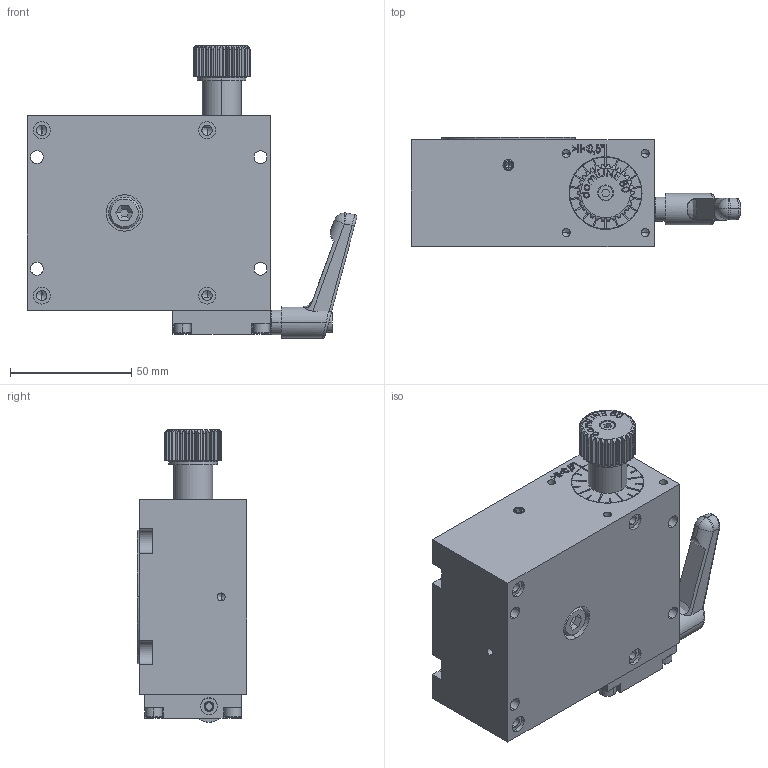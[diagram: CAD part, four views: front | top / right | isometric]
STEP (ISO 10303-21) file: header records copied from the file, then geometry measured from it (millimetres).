
FILE_DESCRIPTION (( 'STEP AP214' ), '1' );
FILE_NAME ('Dreheinheit MDV 80 100 AV 1 Stellknopf mit Klemmung.STEP', '2012-01-17T11:17:23', ( '' ), ( '' ), 'SwSTEP 2.0', 'SolidWorks 2010', '' );
FILE_SCHEMA (( 'AUTOMOTIVE_DESIGN' ));
Length unit declared in the file: millimetre
Products named in the file (20): Dreheinheit_MDV_80_100_light-+-D172111_-_PDB_1103075; Gehaeuse_MDV_80_100-+-D172109_-_PDB; Abdeckung_MDV_80_100-+-D169391_-_PDB_1103081; SC-7984_M 8 x 16; SC-7991_M 8 x 20; Drehteller-+-D169130_-_PDB_1103070; Deckel-+-D169138_-_PDB_1103074; Gewindestift_DIN_913-+-D168887_-_PDB_1102874; Trichternippel-+-D018594_ _PDB_1028704; Endschraube-+-D168888_-_PDB_309101; SC-912_M 4 x 12; Stellknopf_MDV_80_100-+-D169415_-_PDB_1103165; Zahnscheibe 80 o. ORing-+-D003226_ _PDB_972957; Konterschraube 80-+-D002990_ _PDB_971337; Druchhuelse-+-D169387_-_PDB_1103154; O_Ring_NBR_70_Shore_A_8_00_1_00-+-D030146_ _PDB_1021047; Klemmung_MDV_80_100-+-D169454_-_PDB_1103176; Huelse_MDV_80_100-+-D169394_-_PDB_1103156; Klemmhebel-+-D044825_ _PDB_1046944; Dreheinheit MDV 80 100 AV 1 Stellknopf mit Klemmung
Assembly tree (26 placements, depth 3):
  Dreheinheit MDV 80 100 AV 1 Stellknopf mit Klemmung
    Stellknopf_MDV_80_100-+-D169415_-_PDB_1103165
      Druchhuelse-+-D169387_-_PDB_1103154
      Konterschraube 80-+-D002990_ _PDB_971337
      O_Ring_NBR_70_Shore_A_8_00_1_00-+-D030146_ _PDB_1021047
      Zahnscheibe 80 o. ORing-+-D003226_ _PDB_972957
    Dreheinheit_MDV_80_100_light-+-D172111_-_PDB_1103075
      Gehaeuse_MDV_80_100-+-D172109_-_PDB
      Endschraube-+-D168888_-_PDB_309101  x4
      SC-7984_M 8 x 16
      SC-912_M 4 x 12  x4
      Deckel-+-D169138_-_PDB_1103074
      Gewindestift_DIN_913-+-D168887_-_PDB_1102874  x2
      Abdeckung_MDV_80_100-+-D169391_-_PDB_1103081
      Drehteller-+-D169130_-_PDB_1103070
      Trichternippel-+-D018594_ _PDB_1028704
      SC-7991_M 8 x 20
    Klemmung_MDV_80_100-+-D169454_-_PDB_1103176
      Huelse_MDV_80_100-+-D169394_-_PDB_1103156
      Klemmhebel-+-D044825_ _PDB_1046944
Bounding box: 135.64 x 45 x 120.35 mm (x, y, z)
Volume: 349720.3 mm3; surface area: 81572.8 mm2
Topology: 23 solids, 23 shells, 1130 faces, 2837 edges, 1799 vertices
Faces by surface type: plane 495, cylinder 364, cone 123, bspline 120, torus 22, sphere 6
Entity records: 43545 total; most frequent: CARTESIAN_POINT 13279, ORIENTED_EDGE 4936, DIRECTION 4642, EDGE_CURVE 2468, AXIS2_PLACEMENT_3D 1623, VERTEX_POINT 1608, VECTOR 1396, LINE 1396
